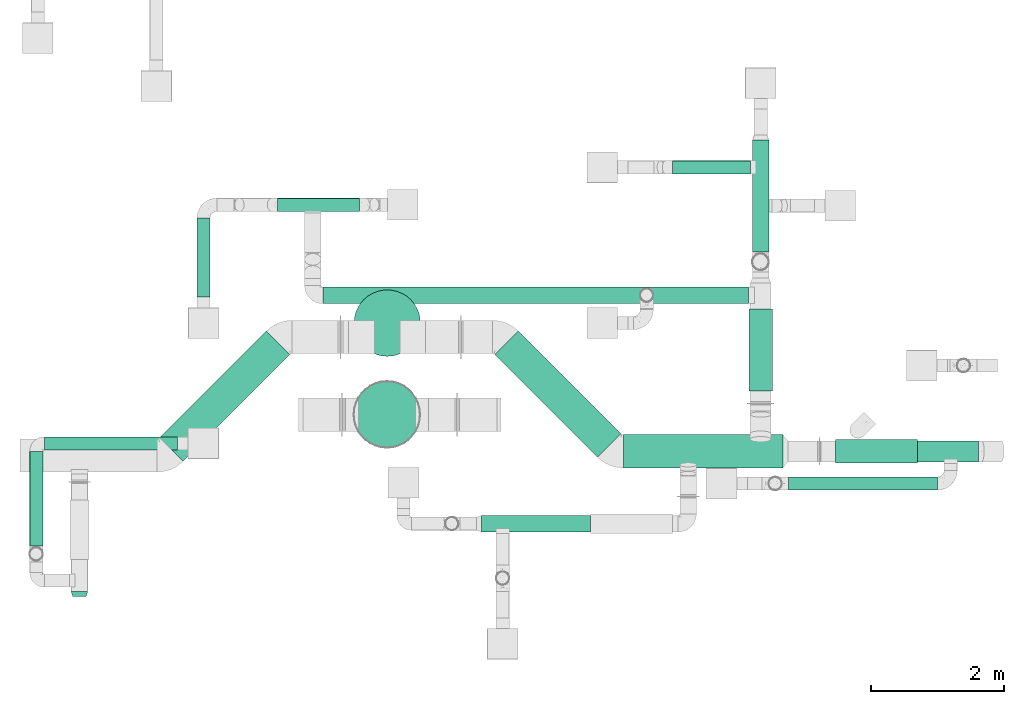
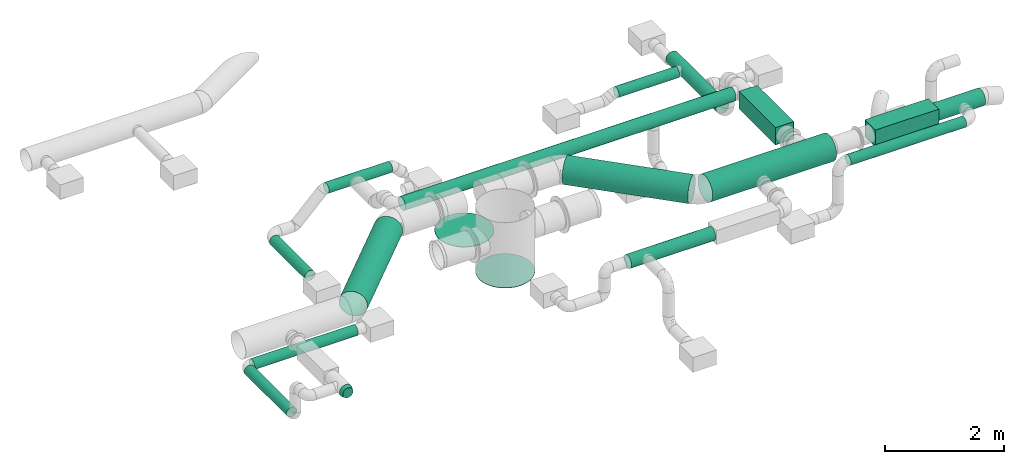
# One storey, part 1 of 31: 13 flow segments, 3 flow fittings, 2 flow treatment devices.
"""IFC2X3 building model written with IfcOpenShell, lengths in millimetres."""

from ifc_helpers import new_model, entity, si_unit, converted_unit, derived_unit, direction, frame, origin_with_axes, origin_2d_with_axis, place, context, subcontext, project, spatial, hollow_circle, extrude, open_shell, surface_model, source, transform, mapped, type_object, element, save


model = new_model("IFC2X3")

# Units and contexts
model_context = context("Model", 3, precision=0.01, world=frame((0.0, 4.29681676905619e-09, 0.0)), true_north=direction((4.01073788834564e-13, 1.0)))
plan_context = context("Plan", 3, precision=0.01, world=frame((0.0, 4.29681676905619e-09, 0.0)), true_north=direction((4.01073788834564e-13, 1.0)))
body_context = subcontext(model_context, "Body", "Model", "MODEL_VIEW")
ifc_project = project(units=[converted_unit("PLANEANGLEUNIT", "DEGREE", entity("IfcPositiveLengthMeasure", 0.0174532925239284), si_unit("PLANEANGLEUNIT", "RADIAN"), dimensions=[0, 0, 0, 0, 0, 0, 0]), si_unit("AREAUNIT", "SQUARE_METRE"), si_unit("LENGTHUNIT", "METRE", prefix="MILLI"), si_unit("MASSUNIT", "GRAM", prefix="KILO"), si_unit("POWERUNIT", "WATT"), si_unit("PRESSUREUNIT", "PASCAL", prefix="KILO"), si_unit("FORCEUNIT", "NEWTON", prefix="KILO"), si_unit("ELECTRICVOLTAGEUNIT", "VOLT"), si_unit("ELECTRICCURRENTUNIT", "AMPERE"), si_unit("THERMODYNAMICTEMPERATUREUNIT", "DEGREE_CELSIUS"), si_unit("TIMEUNIT", "SECOND"), si_unit("VOLUMEUNIT", "CUBIC_METRE"), derived_unit("LINEARVELOCITYUNIT", [(si_unit("LENGTHUNIT", "METRE"), 1), (si_unit("TIMEUNIT", "SECOND"), -1)]), derived_unit("VOLUMETRICFLOWRATEUNIT", [(si_unit("VOLUMEUNIT", "CUBIC_METRE"), 1), (si_unit("TIMEUNIT", "SECOND"), -1)]), derived_unit("THERMALTRANSMITTANCEUNIT", [(si_unit("POWERUNIT", "WATT"), 1), (si_unit("THERMODYNAMICTEMPERATUREUNIT", "KELVIN"), -1), (si_unit("AREAUNIT", "SQUARE_METRE"), -1)]), derived_unit("SOUNDPRESSUREUNIT", [(si_unit("PRESSUREUNIT", "PASCAL"), 1)])], contexts=[model_context, plan_context])

# Site, building, storey
site_placement = place(None, frame((0.0, -4.29681676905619e-09, 0.0), z_axis=(0.0, 0.0, 1.0), x_axis=(1.0, 0.0, 0.0)))
site = spatial("IfcSite", under=ifc_project, at=site_placement, CompositionType="ELEMENT")
building_placement = place(site_placement, frame((0.0, 4.29681676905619e-09, 0.0), z_axis=(0.0, 0.0, 1.0), x_axis=(1.0, 0.0, 0.0)))
building = spatial("IfcBuilding", under=site, at=building_placement, Name="mc-building", CompositionType="ELEMENT")
storey_placement = place(building_placement, frame((0.0, 0.0, 210900.0), z_axis=(0.0, 0.0, 1.0), x_axis=(1.0, 0.0, 0.0)))
storey = spatial("IfcBuildingStorey", under=building, at=storey_placement, Name="Nivå F", CompositionType="ELEMENT", Elevation=210900.0)

# Flow fittings
duct_fitting_type_1 = type_object("IfcDuctFittingType", Name="magicirc_reduction_001", PredefinedType="TRANSITION")
shared_shape_1 = source(origin_with_axes(), body_context, "Body", "SurfaceModel", [
    surface_model("IfcShellBasedSurfaceModel", [(75.0, -100.0, 0.0), (75.0, -17.36482, 98.48077), (75.0, -50.0, 86.60254), (75.0, 76.60444, 64.27876), (75.0, 93.96926, -34.20201), (75.0, 93.96926, 34.20201), (75.0, 76.60444, -64.27876), (75.0, 17.36482, 98.48077), (0.0, -118.88206, 38.62713), (0.0, -118.88206, -38.62713), (0.0, -125.0, 0.0), (0.0, 125.0, 0.0), (0.0, -73.47315, -101.12712), (0.0, 101.12712, -73.47315), (0.0, 73.47315, -101.12712), (0.0, 38.62713, -118.88206), (75.0, -76.60444, 64.27876), (75.0, 50.0, 86.60254), (75.0, 100.0, 0.0), (75.0, -93.96926, 34.20201), (75.0, -17.36482, -98.48077), (75.0, -93.96926, -34.20201), (75.0, -76.60444, -64.27876), (75.0, -50.0, -86.60254), (75.0, 50.0, -86.60254), (75.0, 17.36482, -98.48077), (0.0, -38.62713, 118.88206), (0.0, 0.0, 125.0), (0.0, 73.47315, 101.12712), (0.0, 101.12712, 73.47315), (0.0, 38.62713, 118.88206), (0.0, -101.12712, 73.47315), (0.0, -73.47315, 101.12712), (0.0, 118.88206, 38.62713), (0.0, -38.62713, -118.88206), (0.0, 118.88206, -38.62713), (0.0, 0.0, -125.0), (0.0, -101.12712, -73.47315)], [open_shell([[[0, 1, 2]], [[3, 4, 5]], [[4, 0, 6]], [[0, 4, 7]], [[8, 9, 10]], [[11, 12, 9]], [[13, 14, 15]], [[1, 0, 7]], [[2, 16, 0]], [[17, 7, 4]], [[5, 4, 18]], [[4, 3, 17]], [[0, 16, 19]], [[20, 0, 21]], [[21, 22, 20]], [[23, 20, 22]], [[24, 20, 25]], [[24, 6, 0]], [[20, 24, 0]], [[9, 26, 27]], [[11, 28, 29]], [[27, 30, 11]], [[30, 28, 11]], [[9, 31, 32]], [[31, 9, 8]], [[9, 32, 26]], [[11, 29, 33]], [[34, 11, 35]], [[35, 13, 36]], [[15, 36, 13]], [[37, 9, 12]], [[11, 34, 12]], [[35, 36, 34]], [[11, 9, 27]], [[18, 4, 35]], [[24, 25, 15]], [[6, 24, 14]], [[4, 6, 13]], [[11, 18, 35]], [[6, 14, 13]], [[13, 35, 4]], [[14, 24, 15]], [[25, 36, 15]], [[34, 20, 23]], [[21, 0, 9]], [[22, 21, 37]], [[12, 23, 22]], [[34, 36, 20]], [[12, 34, 23]], [[21, 9, 37]], [[37, 12, 22]], [[10, 9, 0]], [[20, 36, 25]], [[0, 19, 8]], [[2, 1, 26]], [[16, 2, 32]], [[19, 16, 31]], [[10, 0, 8]], [[16, 32, 31]], [[31, 8, 19]], [[32, 2, 26]], [[1, 27, 26]], [[30, 7, 17]], [[5, 18, 33]], [[3, 5, 29]], [[28, 17, 3]], [[30, 27, 7]], [[28, 30, 17]], [[5, 33, 29]], [[29, 28, 3]], [[11, 33, 18]], [[7, 27, 1]]])]),
])
flow_fitting_placement = place(storey_placement, frame((715332.69489, 436381.78045, 3950.0), z_axis=(0.0, 0.0, 1.0), x_axis=(0.0, -1.0, 0.0)))
element("IfcFlowFitting", 1, at=flow_fitting_placement, inside=storey, type_object=duct_fitting_type_1, Name="magicirc_reduction_001", context=body_context, shape_type="MappedRepresentation", body=[
    mapped(shared_shape_1, transform((0.0, 0.0, 0.0), scale=1.0)),
])
duct_fitting_type_2 = type_object("IfcDuctFittingType", Name="magicirc_plug_001", PredefinedType="OBSTRUCTION")
shared_shape_2 = source(origin_with_axes(), body_context, "Body", "SurfaceModel", [
    surface_model("IfcShellBasedSurfaceModel", [(0.0, 0.0, -500.0), (0.0, 293.89262, -404.50849), (0.0, 226.99525, -445.50326), (0.0, 154.5085, -475.52824), (0.0, 78.21724, -493.84417), (0.0, -154.5085, -475.52824), (0.0, -445.50326, -226.99525), (0.0, 475.52824, -154.5085), (0.0, 445.50326, -226.99525), (0.0, 404.50849, -293.89262), (0.0, 353.55338, -353.55338), (0.0, 493.84417, -78.21724), (0.0, -293.89262, -404.50849), (0.0, -226.99525, -445.50326), (0.0, -353.55338, -353.55338), (0.0, -78.21724, -493.84417), (0.0, -404.50849, -293.89262), (0.0, -475.52824, -154.5085), (0.0, -493.84417, -78.21724), (0.0, -500.0, 0.0), (0.0, 500.0, 0.0), (0.0, 475.52824, 154.5085), (0.0, 493.84417, 78.21724), (0.0, 404.50849, 293.89262), (0.0, 445.50326, 226.99525), (0.0, 78.21724, 493.84417), (0.0, 353.55338, 353.55338), (0.0, 154.5085, 475.52824), (0.0, 293.89262, 404.50849), (0.0, 226.99525, 445.50326), (0.0, -78.21724, 493.84417), (0.0, -404.50849, 293.89262), (0.0, -353.55338, 353.55338), (0.0, -293.89262, 404.50849), (0.0, -475.52824, 154.5085), (0.0, -445.50326, 226.99525), (0.0, -493.84417, 78.21724), (0.0, -226.99525, 445.50326), (0.0, -154.5085, 475.52824), (0.0, 0.0, 500.0), (10.0, 226.99525, -445.50326), (10.0, 293.89262, -404.50849), (10.0, 0.0, -500.0), (10.0, 78.21724, -493.84417), (10.0, 154.5085, -475.52824), (10.0, 353.55338, -353.55338), (10.0, 475.52824, -154.5085), (10.0, -154.5085, -475.52824), (10.0, 404.50849, -293.89262), (10.0, 445.50326, -226.99525), (10.0, -293.89262, -404.50849), (10.0, 493.84417, -78.21724), (10.0, -226.99525, -445.50326), (10.0, -353.55338, -353.55338), (10.0, -404.50849, -293.89262), (10.0, -78.21724, -493.84417), (10.0, -445.50326, -226.99525), (10.0, -493.84417, -78.21724), (10.0, -475.52824, -154.5085), (10.0, -500.0, 0.0), (10.0, 500.0, 0.0), (10.0, 493.84417, 78.21724), (10.0, 475.52824, 154.5085), (10.0, 445.50326, 226.99525), (10.0, 404.50849, 293.89262), (10.0, -493.84417, 78.21724), (10.0, 353.55338, 353.55338), (10.0, 293.89262, 404.50849), (10.0, 154.5085, 475.52824), (10.0, 78.21724, 493.84417), (10.0, 226.99525, 445.50326), (10.0, -475.52824, 154.5085), (10.0, -293.89262, 404.50849), (10.0, -353.55338, 353.55338), (10.0, -404.50849, 293.89262), (10.0, 0.0, 500.0), (10.0, -445.50326, 226.99525), (10.0, -78.21724, 493.84417), (10.0, -226.99525, 445.50326), (10.0, -154.5085, 475.52824)], [open_shell([[[0, 1, 2]], [[2, 3, 4]], [[0, 2, 4]], [[5, 1, 0]], [[1, 6, 7]], [[7, 8, 9]], [[7, 9, 1]], [[9, 10, 1]], [[7, 6, 11]], [[5, 12, 6]], [[13, 12, 5]], [[6, 12, 14]], [[5, 0, 15]], [[6, 14, 16]], [[17, 18, 6]], [[19, 6, 18]], [[1, 5, 6]], [[6, 19, 11]], [[19, 20, 11]], [[21, 22, 20]], [[23, 24, 21]], [[25, 21, 20]], [[23, 21, 26]], [[27, 28, 26]], [[26, 25, 27]], [[29, 28, 27]], [[21, 25, 26]], [[30, 25, 20]], [[31, 32, 33]], [[31, 19, 34]], [[35, 31, 34]], [[19, 36, 34]], [[31, 33, 30]], [[33, 37, 30]], [[38, 30, 37]], [[30, 20, 31]], [[39, 25, 30]], [[31, 20, 19]], [[40, 41, 42]], [[43, 44, 40]], [[43, 40, 42]], [[41, 45, 42]], [[45, 46, 47]], [[45, 48, 49]], [[45, 49, 46]], [[47, 42, 45]], [[50, 46, 51]], [[47, 46, 50]], [[47, 50, 52]], [[53, 50, 54]], [[47, 55, 42]], [[54, 50, 56]], [[56, 57, 58]], [[57, 56, 59]], [[51, 56, 50]], [[56, 51, 59]], [[51, 60, 59]], [[60, 61, 62]], [[62, 63, 64]], [[65, 60, 62]], [[66, 62, 64]], [[66, 67, 68]], [[68, 69, 66]], [[68, 67, 70]], [[62, 66, 65]], [[69, 71, 66]], [[72, 73, 74]], [[75, 74, 71]], [[71, 74, 76]], [[66, 71, 65]], [[75, 77, 72]], [[77, 78, 72]], [[78, 77, 79]], [[75, 72, 74]], [[69, 75, 71]], [[60, 65, 59]], [[19, 59, 65]], [[76, 74, 35]], [[71, 76, 34]], [[36, 65, 71]], [[38, 78, 79]], [[33, 73, 72]], [[78, 37, 72]], [[73, 32, 74]], [[77, 30, 79]], [[35, 74, 31]], [[36, 19, 65]], [[71, 34, 36]], [[76, 35, 34]], [[74, 32, 31]], [[33, 32, 73]], [[33, 72, 37]], [[38, 37, 78]], [[38, 79, 30]], [[77, 39, 30]], [[77, 75, 39]], [[28, 70, 67]], [[27, 69, 68]], [[70, 29, 68]], [[26, 67, 66]], [[62, 61, 22]], [[24, 64, 63]], [[21, 63, 62]], [[66, 64, 23]], [[20, 61, 60]], [[75, 25, 39]], [[75, 69, 25]], [[27, 25, 69]], [[68, 29, 27]], [[28, 29, 70]], [[26, 28, 67]], [[23, 26, 66]], [[23, 64, 24]], [[21, 24, 63]], [[22, 21, 62]], [[61, 20, 22]], [[51, 20, 60]], [[49, 7, 46]], [[11, 51, 46]], [[8, 49, 48]], [[45, 41, 10]], [[44, 43, 4]], [[40, 44, 3]], [[45, 9, 48]], [[41, 40, 1]], [[9, 8, 48]], [[46, 7, 11]], [[7, 49, 8]], [[11, 20, 51]], [[2, 1, 40]], [[3, 44, 4]], [[10, 41, 1]], [[43, 0, 4]], [[10, 9, 45]], [[40, 3, 2]], [[43, 42, 0]], [[12, 52, 50]], [[5, 55, 47]], [[52, 13, 47]], [[14, 50, 53]], [[58, 57, 18]], [[6, 54, 56]], [[17, 56, 58]], [[53, 54, 16]], [[19, 57, 59]], [[42, 15, 0]], [[42, 55, 15]], [[5, 15, 55]], [[47, 13, 5]], [[12, 13, 52]], [[14, 12, 50]], [[16, 14, 53]], [[16, 54, 6]], [[17, 6, 56]], [[18, 17, 58]], [[57, 19, 18]]])]),
])
for number, where, z_axis, x_axis, name in (
    (2, (719965.15412, 440424.13222, 3170.0), (-1.0, 0.0, 0.0), (0.0, 0.0, -1.0), "magicirc_plug_001"),
    (3, (719961.47564, 439048.14298, 3170.0), (-1.0, 0.0, 0.0), (0.0, 0.0, -1.0), "magicirc_plug_001"),
):
    element("IfcFlowFitting", number, at=place(storey_placement, frame(where, z_axis=z_axis, x_axis=x_axis)), inside=storey, type_object=duct_fitting_type_2, Name=name, context=body_context, shape_type="MappedRepresentation", body=[
        mapped(shared_shape_2, transform((0.0, 0.0, 0.0), scale=1.0)),
    ])

# Flow segments
duct_segment_type_1 = type_object("IfcDuctSegmentType", Name="KK001T - Spiro kanaler, Forsinket stål", PredefinedType="RIGIDSEGMENT")
shared_shape_3 = source(origin_with_axes(), body_context, "Body", "SweptSolid", [
    extrude(hollow_circle(Radius=250.0, WallThickness=2.0, at=origin_2d_with_axis()), frame((0.0, 0.0, 0.0), z_axis=(1.0, 0.0, 0.0), x_axis=(0.0, 1.0, 0.0)), (0.0, 0.0, 1.0), 2273.7),
])
flow_segment_1_placement = place(storey_placement, frame((716713.56406, 438519.64842, 3950.0), z_axis=(0.0, 0.0, 1.0), x_axis=(0.707106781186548, 0.707106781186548, 0.0)))
element("IfcFlowSegment", 4, at=flow_segment_1_placement, inside=storey, type_object=duct_segment_type_1, Name="KK001T - Spiro kanaler, Forsinket stål", context=body_context, shape_type="MappedRepresentation", body=[
    mapped(shared_shape_3, transform((0.0, 0.0, 0.0), scale=1.0)),
])
shared_shape_4 = source(origin_with_axes(), body_context, "Body", "SweptSolid", [
    extrude(hollow_circle(Radius=250.0, WallThickness=2.0, at=origin_2d_with_axis()), frame((0.0, 0.0, 0.0), z_axis=(1.0, 0.0, 0.0), x_axis=(0.0, 1.0, 0.0)), (0.0, 0.0, 1.0), 2184.4),
])
flow_segment_2_placement = place(storey_placement, frame((721761.92233, 440127.36401, 3950.0), z_axis=(0.0, 0.0, 1.0), x_axis=(0.707106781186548, -0.707106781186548, 0.0)))
element("IfcFlowSegment", 5, at=flow_segment_2_placement, inside=storey, type_object=duct_segment_type_1, Name="KK001T - Spiro kanaler, Forsinket stål", context=body_context, shape_type="MappedRepresentation", body=[
    mapped(shared_shape_4, transform((0.0, 0.0, 0.0), scale=1.0)),
])
shared_shape_5 = source(origin_with_axes(), body_context, "Body", "SweptSolid", [
    extrude(hollow_circle(Radius=100.0, WallThickness=2.0, at=origin_2d_with_axis()), frame((0.0, 0.0, 0.0), z_axis=(1.0, 0.0, 0.0), x_axis=(0.0, 1.0, 0.0)), (0.0, 0.0, 1.0), 2004.2),
])
flow_segment_3_placement = place(storey_placement, frame((716807.38332, 438614.03588, 3320.0), z_axis=(0.0, 0.0, 1.0), x_axis=(-1.0, 0.0, 0.0)))
element("IfcFlowSegment", 6, at=flow_segment_3_placement, inside=storey, type_object=duct_segment_type_1, Name="KK001T - Spiro kanaler, Forsinket stål", context=body_context, shape_type="MappedRepresentation", body=[
    mapped(shared_shape_5, transform((0.0, 0.0, 0.0), scale=1.0)),
])
shared_shape_6 = source(origin_with_axes(), body_context, "Body", "SweptSolid", [
    extrude(hollow_circle(Radius=100.0, WallThickness=2.0, at=origin_2d_with_axis()), frame((0.0, 0.0, 0.0), z_axis=(1.0, 0.0, 0.0), x_axis=(0.0, 1.0, 0.0)), (0.0, 0.0, 1.0), 1424.7),
])
flow_segment_4_placement = place(storey_placement, frame((714683.20737, 438494.03588, 3320.0), z_axis=(0.0, 0.0, 1.0), x_axis=(0.0, -1.0, 0.0)))
element("IfcFlowSegment", 7, at=flow_segment_4_placement, inside=storey, type_object=duct_segment_type_1, Name="KK001T - Spiro kanaler, Forsinket stål", context=body_context, shape_type="MappedRepresentation", body=[
    mapped(shared_shape_6, transform((0.0, 0.0, 0.0), scale=1.0)),
])
shared_shape_7 = source(origin_with_axes(), body_context, "Body", "SweptSolid", [
    extrude(hollow_circle(Radius=100.0, WallThickness=2.0, at=origin_2d_with_axis()), frame((0.0, 0.0, 0.0), z_axis=(1.0, 0.0, 0.0), x_axis=(0.0, 1.0, 0.0)), (0.0, 0.0, 1.0), 1234.5),
])
flow_segment_5_placement = place(storey_placement, frame((718315.15143, 442205.1766, 3525.0), z_axis=(0.0, 0.0, 1.0), x_axis=(1.0, 0.0, 0.0)))
element("IfcFlowSegment", 8, at=flow_segment_5_placement, inside=storey, type_object=duct_segment_type_1, Name="KK001T - Spiro kanaler, Forsinket stål", context=body_context, shape_type="MappedRepresentation", body=[
    mapped(shared_shape_7, transform((0.0, 0.0, 0.0), scale=1.0)),
])
shared_shape_8 = source(origin_with_axes(), body_context, "Body", "SweptSolid", [
    extrude(hollow_circle(Radius=125.0, WallThickness=2.0, at=origin_2d_with_axis()), frame((0.0, 0.0, 0.0), z_axis=(1.0, 0.0, 0.0), x_axis=(0.0, 1.0, 0.0)), (0.0, 0.0, 1.0), 6406.5),
])
flow_segment_6_placement = place(storey_placement, frame((718995.42889, 440841.83428, 3795.0), z_axis=(0.0, 0.0, 1.0), x_axis=(1.0, 0.0, 0.0)))
element("IfcFlowSegment", 9, at=flow_segment_6_placement, inside=storey, type_object=duct_segment_type_1, Name="KK001T - Spiro kanaler, Forsinket stål", context=body_context, shape_type="MappedRepresentation", body=[
    mapped(shared_shape_8, transform((0.0, 0.0, 0.0), scale=1.0)),
])
shared_shape_9 = source(origin_with_axes(), body_context, "Body", "SweptSolid", [
    extrude(hollow_circle(Radius=125.0, WallThickness=2.0, at=origin_2d_with_axis()), frame((0.0, 0.0, 0.0), z_axis=(1.0, 0.0, 0.0), x_axis=(0.0, 1.0, 0.0)), (0.0, 0.0, 1.0), 1684.8),
])
flow_segment_7_placement = place(storey_placement, frame((725584.4603, 441495.1577, 3065.0), z_axis=(0.0, 0.0, 1.0), x_axis=(0.0, 1.0, 0.0)))
element("IfcFlowSegment", 10, at=flow_segment_7_placement, inside=storey, type_object=duct_segment_type_1, Name="KK001T - Spiro kanaler, Forsinket stål", context=body_context, shape_type="MappedRepresentation", body=[
    mapped(shared_shape_9, transform((0.0, 0.0, 0.0), scale=1.0)),
])
shared_shape_10 = source(origin_with_axes(), body_context, "Body", "SweptSolid", [
    extrude(hollow_circle(Radius=157.5, WallThickness=2.0, at=origin_2d_with_axis()), frame((0.0, 0.0, 0.0), z_axis=(1.0, 0.0, 0.0), x_axis=(0.0, 1.0, 0.0)), (0.0, 0.0, 1.0), 915.7),
])
flow_segment_8_placement = place(storey_placement, frame((727944.67358, 438494.89839, 3950.0), z_axis=(0.0, 0.0, 1.0), x_axis=(1.0, 0.0, 0.0)))
element("IfcFlowSegment", 11, at=flow_segment_8_placement, inside=storey, type_object=duct_segment_type_1, Name="KK001T - Spiro kanaler, Forsinket stål", context=body_context, shape_type="MappedRepresentation", body=[
    mapped(shared_shape_10, transform((0.0, 0.0, 0.0), scale=1.0)),
])
shared_shape_11 = source(origin_with_axes(), body_context, "Body", "SweptSolid", [
    extrude(hollow_circle(Radius=125.0, WallThickness=2.0, at=origin_2d_with_axis()), frame((0.0, 0.0, 0.0), z_axis=(1.0, 0.0, 0.0), x_axis=(0.0, 1.0, 0.0)), (0.0, 0.0, 1.0), 1637.6),
])
flow_segment_9_placement = place(storey_placement, frame((723024.83655, 437405.213, 3855.0), z_axis=(0.0, 0.0, 1.0), x_axis=(-1.0, 0.0, 0.0)))
element("IfcFlowSegment", 12, at=flow_segment_9_placement, inside=storey, type_object=duct_segment_type_1, Name="KK001T - Spiro kanaler, Forsinket stål", context=body_context, shape_type="MappedRepresentation", body=[
    mapped(shared_shape_11, transform((0.0, 0.0, 0.0), scale=1.0)),
])
duct_segment_type_2 = type_object("IfcDuctSegmentType", Name="2 - Spiro kanaler, Forsinket stål", PredefinedType="RIGIDSEGMENT")
shared_shape_12 = source(origin_with_axes(), body_context, "Body", "SweptSolid", [
    extrude(hollow_circle(Radius=100.0, WallThickness=2.0, at=origin_2d_with_axis()), frame((0.0, 0.0, 0.0), z_axis=(1.0, 0.0, 0.0), x_axis=(0.0, 1.0, 0.0)), (0.0, 0.0, 1.0), 1189.9),
])
flow_segment_10_placement = place(storey_placement, frame((717200.44584, 440815.26005, 2965.01186999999), z_axis=(0.0, 0.0, 1.0), x_axis=(0.0, 1.0, 0.0)))
element("IfcFlowSegment", 13, at=flow_segment_10_placement, inside=storey, type_object=duct_segment_type_2, Name="2 - Spiro kanaler, Forsinket stål", context=body_context, shape_type="MappedRepresentation", body=[
    mapped(shared_shape_12, transform((0.0, 0.0, 0.0), scale=1.0)),
])
shared_shape_13 = source(origin_with_axes(), body_context, "Body", "SweptSolid", [
    extrude(hollow_circle(Radius=100.0, WallThickness=2.0, at=origin_2d_with_axis()), frame((0.0, 0.0, 0.0), z_axis=(1.0, 0.0, 0.0), x_axis=(0.0, 1.0, 0.0)), (0.0, 0.0, 1.0), 2240.0),
])
flow_segment_11_placement = place(storey_placement, frame((726005.46533, 438009.23478, 3950.0), z_axis=(0.0, 0.0, 1.0), x_axis=(1.0, 0.0, 0.0)))
element("IfcFlowSegment", 14, at=flow_segment_11_placement, inside=storey, type_object=duct_segment_type_1, Name="KK001T - Spiro kanaler, Forsinket stål", context=body_context, shape_type="MappedRepresentation", body=[
    mapped(shared_shape_13, transform((0.0, 0.0, 0.0), scale=1.0)),
])
shared_shape_14 = source(origin_with_axes(), body_context, "Body", "SweptSolid", [
    extrude(hollow_circle(Radius=100.0, WallThickness=2.0, at=origin_2d_with_axis()), frame((0.0, 0.0, 0.0), z_axis=(1.0, 0.0, 0.0), x_axis=(0.0, 1.0, 0.0)), (0.0, 0.0, 1.0), 1177.1),
])
flow_segment_12_placement = place(storey_placement, frame((725434.4603, 442768.69981, 3065.0), z_axis=(0.0, 0.0, 1.0), x_axis=(-1.0, 0.0, 0.0)))
element("IfcFlowSegment", 15, at=flow_segment_12_placement, inside=storey, type_object=duct_segment_type_1, Name="KK001T - Spiro kanaler, Forsinket stål", context=body_context, shape_type="MappedRepresentation", body=[
    mapped(shared_shape_14, transform((0.0, 0.0, 0.0), scale=1.0)),
])
shared_shape_15 = source(origin_with_axes(), body_context, "Body", "SweptSolid", [
    extrude(hollow_circle(Radius=250.0, WallThickness=2.0, at=origin_2d_with_axis()), frame((0.0, 0.0, 0.0), z_axis=(1.0, 0.0, 0.0), x_axis=(0.0, 1.0, 0.0)), (0.0, 0.0, 1.0), 2401.7),
])
flow_segment_13_placement = place(storey_placement, frame((723518.65201, 438494.89839, 3950.0), z_axis=(0.0, 0.0, 1.0), x_axis=(1.0, 0.0, 0.0)))
element("IfcFlowSegment", 16, at=flow_segment_13_placement, inside=storey, type_object=duct_segment_type_1, Name="KK001T - Spiro kanaler, Forsinket stål", context=body_context, shape_type="MappedRepresentation", body=[
    mapped(shared_shape_15, transform((0.0, 0.0, 0.0), scale=1.0)),
])

# Flow treatment devices
duct_silencer_type = type_object("IfcDuctSilencerType", Name="LKR-315-1200", PredefinedType="ROUND")
shared_shape_16 = source(origin_with_axes(), body_context, "Body", "SurfaceModel", [
    surface_model("IfcShellBasedSurfaceModel", [(-615.00003, -177.49999, -177.60001), (-615.00003, 177.49999, -177.60001), (615.00003, -177.49999, -177.60001), (615.00003, 177.49999, -177.60001), (615.00003, -177.49999, -177.4), (615.00003, 177.49999, -177.4), (-615.00003, -177.49999, -177.4), (-615.00003, 177.49999, -177.4), (-615.00003, -177.49999, 177.4), (-615.00003, 177.49999, 177.4), (615.00003, -177.49999, 177.4), (615.00003, 177.49999, 177.4), (615.00003, -177.49999, 177.60001), (615.00003, 177.49999, 177.60001), (-615.00003, -177.49999, 177.60001), (-615.00003, 177.49999, 177.60001), (-615.00003, 177.4, -177.49999), (615.00003, 177.4, -177.49999), (-615.00003, 177.4, 177.49999), (615.00003, 177.4, 177.49999), (-615.00003, 177.60001, 177.49999), (615.00003, 177.60001, 177.49999), (615.00003, 177.60001, -177.49999), (-615.00003, 177.60001, -177.49999), (-615.00003, -177.60001, -177.49999), (615.00003, -177.60001, -177.49999), (-615.00003, -177.60001, 177.49999), (615.00003, -177.60001, 177.49999), (-615.00003, -177.4, 177.49999), (615.00003, -177.4, 177.49999), (615.00003, -177.4, -177.49999), (-615.00003, -177.4, -177.49999), (604.9, 177.39998, 177.4), (604.9, 177.39998, -177.39998), (604.9, -177.4, -177.39998), (604.9, -177.4, 177.4), (605.09998, -177.4, 177.4), (605.09998, -177.4, -177.39998), (605.09998, 177.39998, 177.4), (605.09998, 177.39998, -177.39998), (-605.09998, 177.39998, 177.4), (-605.09998, 177.39998, -177.39998), (-605.09998, -177.4, -177.39998), (-605.09998, -177.4, 177.4), (-604.9, -177.4, 177.4), (-604.9, -177.4, -177.39998), (-604.9, 177.39998, 177.4), (-604.9, 177.39998, -177.39998)], [open_shell([[[0, 1, 2]], [[3, 2, 1]], [[4, 5, 6]], [[7, 6, 5]], [[1, 0, 6]], [[6, 7, 1]], [[0, 2, 6]], [[4, 6, 2]], [[2, 3, 5]], [[5, 4, 2]], [[3, 1, 5]], [[7, 5, 1]], [[8, 9, 10]], [[11, 10, 9]], [[12, 13, 14]], [[15, 14, 13]], [[9, 8, 14]], [[14, 15, 9]], [[8, 10, 14]], [[12, 14, 10]], [[10, 11, 13]], [[13, 12, 10]], [[11, 9, 13]], [[15, 13, 9]], [[16, 17, 18]], [[19, 18, 17]], [[20, 21, 22]], [[22, 23, 20]], [[19, 17, 22]], [[22, 21, 19]], [[18, 19, 20]], [[21, 20, 19]], [[16, 18, 20]], [[20, 23, 16]], [[17, 16, 22]], [[23, 22, 16]], [[24, 25, 26]], [[27, 26, 25]], [[28, 29, 30]], [[30, 31, 28]], [[27, 25, 30]], [[30, 29, 27]], [[26, 27, 28]], [[29, 28, 27]], [[24, 26, 28]], [[28, 31, 24]], [[25, 24, 30]], [[31, 30, 24]], [[32, 33, 34]], [[34, 35, 32]], [[36, 37, 38]], [[39, 38, 37]], [[34, 33, 39]], [[39, 37, 34]], [[35, 34, 37]], [[37, 36, 35]], [[32, 35, 36]], [[36, 38, 32]], [[33, 32, 38]], [[38, 39, 33]], [[40, 41, 42]], [[42, 43, 40]], [[44, 45, 46]], [[47, 46, 45]], [[42, 41, 47]], [[47, 45, 42]], [[43, 42, 45]], [[45, 44, 43]], [[40, 43, 44]], [[44, 46, 40]], [[41, 40, 46]], [[46, 47, 41]]])]),
])
for number, where, z_axis, x_axis in (
    (17, (727329.67358, 438494.89839, 3950.0), (0.0, 0.0, 1.0), (1.0, 0.0, 0.0)),
    (18, (725584.4603, 440021.39858, 3795.0), (0.0, 0.0, 1.0), (0.0, -1.0, 0.0)),
):
    element("IfcFlowTreatmentDevice", number, at=place(storey_placement, frame(where, z_axis=z_axis, x_axis=x_axis)), inside=storey, type_object=duct_silencer_type, Name="LKR-315-1200", context=body_context, shape_type="MappedRepresentation", body=[
        mapped(shared_shape_16, transform((0.0, 0.0, 0.0), scale=1.0)),
    ])

save(model, "model.ifc")
